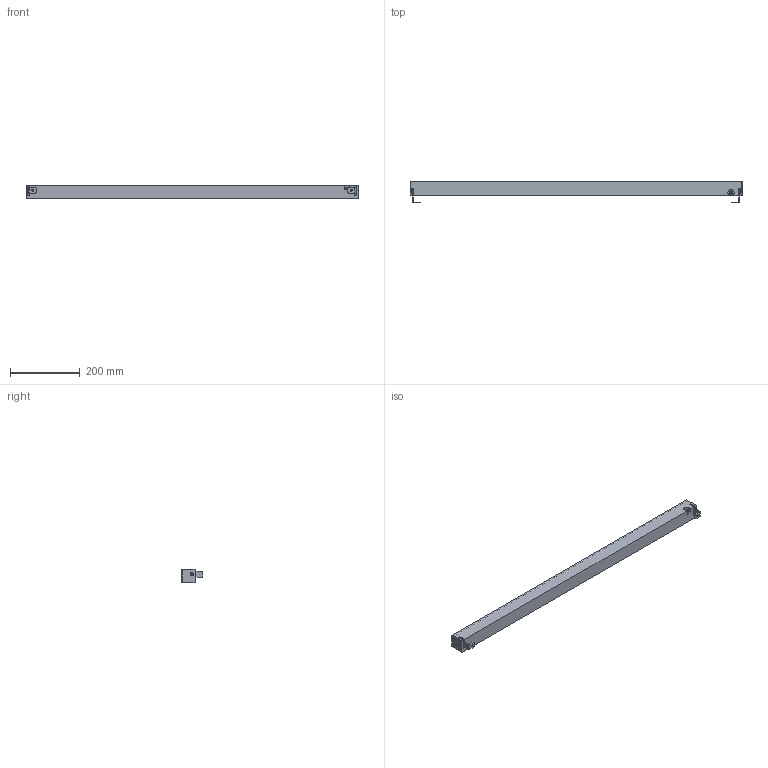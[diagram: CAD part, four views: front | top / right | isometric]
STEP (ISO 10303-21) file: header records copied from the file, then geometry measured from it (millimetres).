
FILE_DESCRIPTION(/* description */ (''),/* implementation_level */ '2;1');
FILE_NAME(/* name */ 'C:/Elena/ILM/02 3D/Elvira/Pubblico/Elvira 90.step',/* time_stamp */ '2020-06-05T12:15:49+02:00',/* author */ (''),/* organization */ (''),/* preprocessor_version */ 'ST-DEVELOPER v18.1',/* originating_system */ 'Autodesk Translation Framework v9.3.0.1241',/* authorisation */ '');
FILE_SCHEMA (('AUTOMOTIVE_DESIGN { 1 0 10303 214 3 1 1 }'));
Length unit declared in the file: millimetre
Products named in the file (1): (Unsaved)
Bounding box: 950 x 62.75 x 40 mm (x, y, z)
Volume: 1513687.8 mm3; surface area: 250926.5 mm2
Topology: 7 solids, 7 shells, 144 faces, 347 edges, 226 vertices
Faces by surface type: plane 91, cylinder 48, cone 5
Full cylindrical faces by diameter (mm): 3 x2, 5 x7, 5.5 x2, 9 x2, 10.127 x1
Entity records: 4266 total; most frequent: DIRECTION 751, CARTESIAN_POINT 718, ORIENTED_EDGE 694, EDGE_CURVE 347, AXIS2_PLACEMENT_3D 259, LINE 233, VECTOR 233, VERTEX_POINT 226
